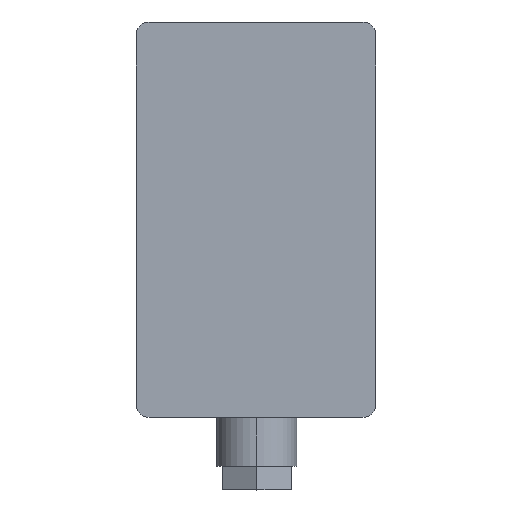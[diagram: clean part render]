
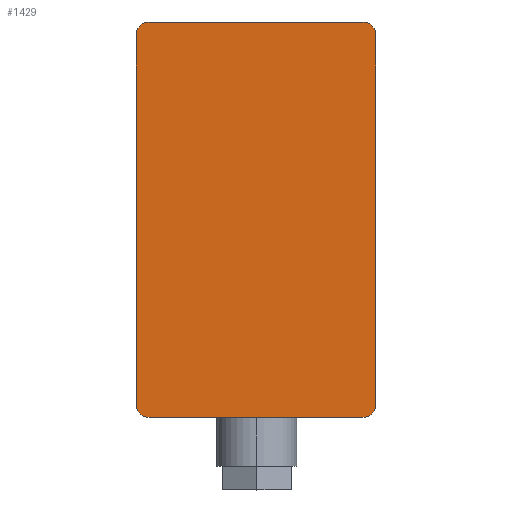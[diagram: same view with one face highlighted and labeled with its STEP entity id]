
A CAD part, top view. The second image highlights one B-rep face of the part: STEP entity #1429.
In plain terms, the highlighted planar face has unit normal (0, 0, 1).
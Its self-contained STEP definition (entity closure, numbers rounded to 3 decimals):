
#38 = DIRECTION ( 'NONE',  ( 0., 1., 0. ) ) ;
#69 = CARTESIAN_POINT ( 'NONE',  ( 24.75, 42.75, 43.5 ) ) ;
#121 = CARTESIAN_POINT ( 'NONE',  ( -27.75, 45.75, 43.5 ) ) ;
#165 = ORIENTED_EDGE ( 'NONE', *, *, #318, .T. ) ;
#241 = VECTOR ( 'NONE', #1590, 1000. ) ;
#242 = EDGE_CURVE ( 'NONE', #1290, #1646, #1030, .T. ) ;
#270 = ORIENTED_EDGE ( 'NONE', *, *, #431, .T. ) ;
#318 = EDGE_CURVE ( 'NONE', #856, #1023, #1086, .T. ) ;
#344 = DIRECTION ( 'NONE',  ( 0., 0., 1. ) ) ;
#347 = AXIS2_PLACEMENT_3D ( 'NONE', #884, #344, #1123 ) ;
#391 = CARTESIAN_POINT ( 'NONE',  ( -27.75, -42.75, 43.5 ) ) ;
#424 = ORIENTED_EDGE ( 'NONE', *, *, #834, .T. ) ;
#431 = EDGE_CURVE ( 'NONE', #1023, #1530, #590, .T. ) ;
#471 = ORIENTED_EDGE ( 'NONE', *, *, #921, .T. ) ;
#488 = VERTEX_POINT ( 'NONE', #740 ) ;
#517 = ORIENTED_EDGE ( 'NONE', *, *, #612, .T. ) ;
#546 = DIRECTION ( 'NONE',  ( 1., 0., 0. ) ) ;
#590 = CIRCLE ( 'NONE', #347, 3. ) ;
#612 = EDGE_CURVE ( 'NONE', #488, #1514, #1294, .T. ) ;
#643 = AXIS2_PLACEMENT_3D ( 'NONE', #1583, #808, #1724 ) ;
#654 = EDGE_CURVE ( 'NONE', #1530, #1669, #688, .T. ) ;
#674 = FACE_OUTER_BOUND ( 'NONE', #1618, .T. ) ;
#688 = LINE ( 'NONE', #988, #1308 ) ;
#703 = CARTESIAN_POINT ( 'NONE',  ( 0., 0., 43.5 ) ) ;
#719 = DIRECTION ( 'NONE',  ( -1., 0., 0. ) ) ;
#740 = CARTESIAN_POINT ( 'NONE',  ( 24.75, 45.75, 43.5 ) ) ;
#793 = CARTESIAN_POINT ( 'NONE',  ( 24.75, -45.75, 43.5 ) ) ;
#806 = CARTESIAN_POINT ( 'NONE',  ( -27.75, -45.75, 43.5 ) ) ;
#808 = DIRECTION ( 'NONE',  ( 0., 0., 1. ) ) ;
#810 = AXIS2_PLACEMENT_3D ( 'NONE', #69, #999, #1529 ) ;
#834 = EDGE_CURVE ( 'NONE', #1669, #488, #1561, .T. ) ;
#856 = VERTEX_POINT ( 'NONE', #1137 ) ;
#884 = CARTESIAN_POINT ( 'NONE',  ( 24.75, -42.75, 43.5 ) ) ;
#899 = AXIS2_PLACEMENT_3D ( 'NONE', #1003, #1150, #1280 ) ;
#921 = EDGE_CURVE ( 'NONE', #1646, #856, #1394, .T. ) ;
#922 = CARTESIAN_POINT ( 'NONE',  ( -27.75, 45.75, 43.5 ) ) ;
#974 = DIRECTION ( 'NONE',  ( 0., 0., 1. ) ) ;
#988 = CARTESIAN_POINT ( 'NONE',  ( 27.75, 45.75, 43.5 ) ) ;
#992 = ORIENTED_EDGE ( 'NONE', *, *, #654, .T. ) ;
#999 = DIRECTION ( 'NONE',  ( 0., 0., 1. ) ) ;
#1003 = CARTESIAN_POINT ( 'NONE',  ( -24.75, 42.75, 43.5 ) ) ;
#1018 = AXIS2_PLACEMENT_3D ( 'NONE', #703, #974, #1113 ) ;
#1023 = VERTEX_POINT ( 'NONE', #793 ) ;
#1030 = LINE ( 'NONE', #121, #241 ) ;
#1086 = LINE ( 'NONE', #806, #1262 ) ;
#1087 = CARTESIAN_POINT ( 'NONE',  ( 27.75, -42.75, 43.5 ) ) ;
#1105 = PLANE ( 'NONE',  #1018 ) ;
#1113 = DIRECTION ( 'NONE',  ( 1., 0., 0. ) ) ;
#1123 = DIRECTION ( 'NONE',  ( 1., 0., 0. ) ) ;
#1130 = ORIENTED_EDGE ( 'NONE', *, *, #1570, .T. ) ;
#1137 = CARTESIAN_POINT ( 'NONE',  ( -24.75, -45.75, 43.5 ) ) ;
#1150 = DIRECTION ( 'NONE',  ( 0., 0., 1. ) ) ;
#1247 = VECTOR ( 'NONE', #719, 1000. ) ;
#1262 = VECTOR ( 'NONE', #546, 1000. ) ;
#1280 = DIRECTION ( 'NONE',  ( 1., 0., 0. ) ) ;
#1290 = VERTEX_POINT ( 'NONE', #1723 ) ;
#1294 = LINE ( 'NONE', #922, #1247 ) ;
#1308 = VECTOR ( 'NONE', #38, 1000. ) ;
#1394 = CIRCLE ( 'NONE', #643, 3. ) ;
#1395 = ORIENTED_EDGE ( 'NONE', *, *, #242, .T. ) ;
#1429 = ADVANCED_FACE ( 'NONE', ( #674 ), #1105, .T. ) ;
#1478 = CARTESIAN_POINT ( 'NONE',  ( -24.75, 45.75, 43.5 ) ) ;
#1514 = VERTEX_POINT ( 'NONE', #1478 ) ;
#1529 = DIRECTION ( 'NONE',  ( 1., 0., 0. ) ) ;
#1530 = VERTEX_POINT ( 'NONE', #1087 ) ;
#1561 = CIRCLE ( 'NONE', #810, 3. ) ;
#1563 = CARTESIAN_POINT ( 'NONE',  ( 27.75, 42.75, 43.5 ) ) ;
#1567 = CIRCLE ( 'NONE', #899, 3. ) ;
#1570 = EDGE_CURVE ( 'NONE', #1514, #1290, #1567, .T. ) ;
#1583 = CARTESIAN_POINT ( 'NONE',  ( -24.75, -42.75, 43.5 ) ) ;
#1590 = DIRECTION ( 'NONE',  ( 0., -1., 0. ) ) ;
#1618 = EDGE_LOOP ( 'NONE', ( #165, #270, #992, #424, #517, #1130, #1395, #471 ) ) ;
#1646 = VERTEX_POINT ( 'NONE', #391 ) ;
#1669 = VERTEX_POINT ( 'NONE', #1563 ) ;
#1723 = CARTESIAN_POINT ( 'NONE',  ( -27.75, 42.75, 43.5 ) ) ;
#1724 = DIRECTION ( 'NONE',  ( 1., 0., 0. ) ) ;
